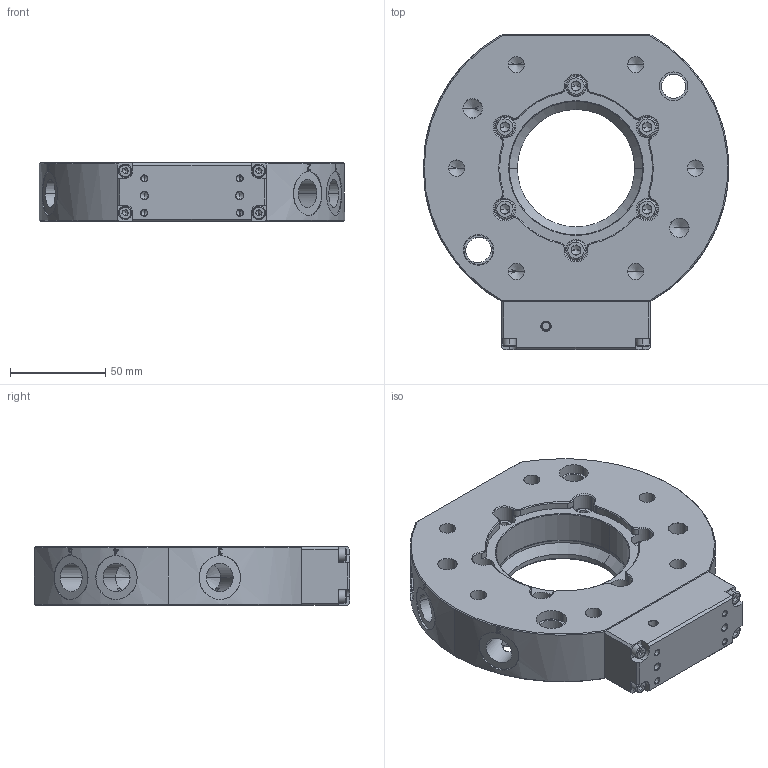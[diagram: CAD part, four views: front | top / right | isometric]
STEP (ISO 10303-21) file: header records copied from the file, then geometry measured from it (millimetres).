
FILE_DESCRIPTION (( 'STEP AP203' ), '1' );
FILE_NAME ('QCA-S100G-S.STEP', '2024-03-20T00:50:25', ( '微软用户' ), ( '微软中国' ), 'SwSTEP 2.0', 'SolidWorks 2018', '' );
FILE_SCHEMA (( 'CONFIG_CONTROL_DESIGN' ));
Length unit declared in the file: millimetre
Products named in the file (1): QCA-S100G-S
Bounding box: 160 x 165 x 30.8 mm (x, y, z)
Volume: 476762.6 mm3; surface area: 87425.7 mm2
Topology: 2 solids, 15 shells, 888 faces, 2157 edges, 1304 vertices
Faces by surface type: plane 312, cylinder 274, cone 242, bspline 60
Entity records: 32477 total; most frequent: CARTESIAN_POINT 12044, DIRECTION 4320, ORIENTED_EDGE 4146, EDGE_CURVE 2073, AXIS2_PLACEMENT_3D 1642, VERTEX_POINT 1304, LINE 1036, VECTOR 1036
